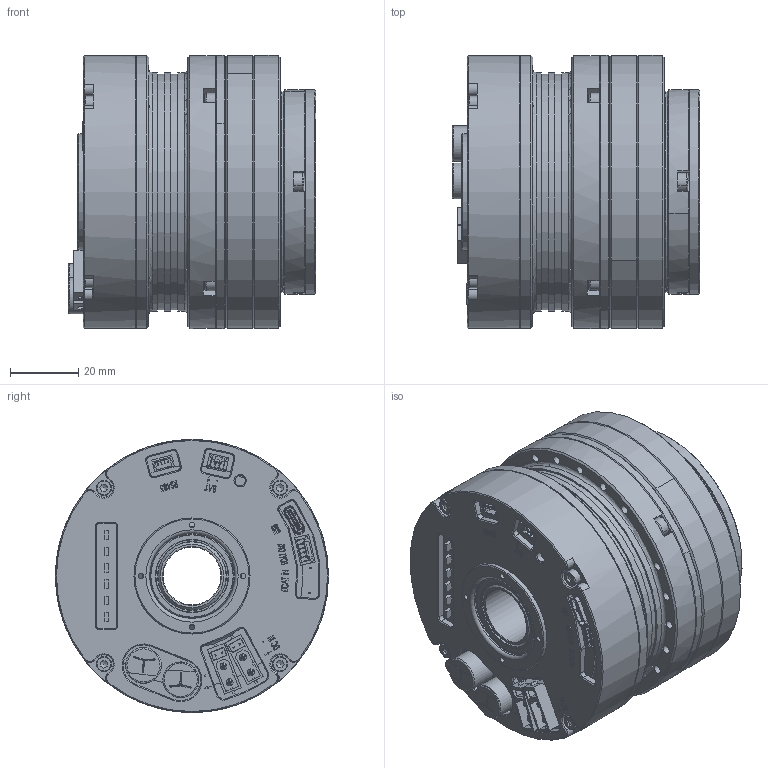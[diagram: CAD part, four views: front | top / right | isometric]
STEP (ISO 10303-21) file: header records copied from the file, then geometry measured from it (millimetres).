
FILE_DESCRIPTION( ('This file contains a STEP AP42 implementation' ,'as created by ZW3D STEP Interface translator.') ,'2;1' );
FILE_NAME( 'HJ2-172.stp' ,'25 820.153634', (''), ('ZWCAD Software Co.'), 'Version 1.0', 'ZW3D to STEP translator', '' );
FILE_SCHEMA(('AUTOMOTIVE_DESIGN { 1 0 10303 214 1 1 1 1 }'));
Length unit declared in the file: millimetre
Products named in the file (1): 0
Bounding box: 72.6 x 80 x 80 mm (x, y, z)
Volume: 231566.4 mm3; surface area: 120887.3 mm2
Topology: 85 solids, 100 shells, 5206 faces, 13667 edges, 8798 vertices
Faces by surface type: plane 3771, cylinder 684, cone 335, bspline 219, torus 153, sphere 44
Full cylindrical faces by diameter (mm): 1.6 x8, 2.05 x4, 2.208 x8, 2.5 x40, 2.7 x12, 3 x9, 3.5 x40, 4.5 x12, 4.7 x16, 10.1 x2, 10.5 x2, 17 x1, 20 x1, 21.168 x4, 21.39 x2, 22.282 x2, 24.718 x2, 25 x1, 25.832 x4, 27 x2, 29 x1, 34 x1, 45 x1, 47 x1, 48 x1, 60 x1, 64.5 x1, 65 x1, 68 x3, 69 x2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
Entity records: 165189 total; most frequent: CARTESIAN_POINT 32009, ORIENTED_EDGE 27036, DIRECTION 25097, EDGE_CURVE 13528, VECTOR 10571, LINE 10571, VERTEX_POINT 8833, AXIS2_PLACEMENT_3D 7263
